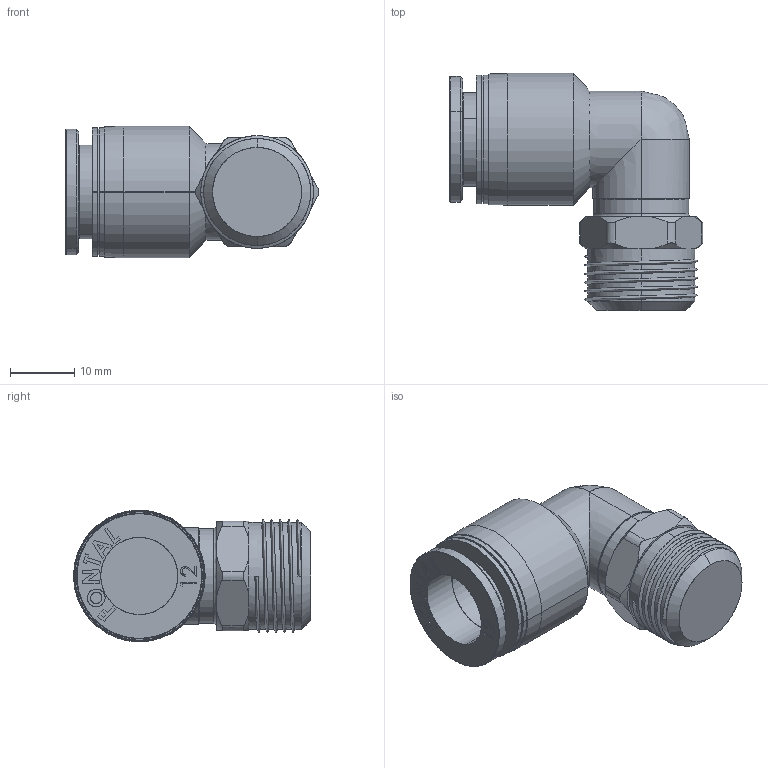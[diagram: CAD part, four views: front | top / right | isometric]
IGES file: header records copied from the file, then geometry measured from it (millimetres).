
Start section: SolidWorks IGES file using analytic representation for surfaces
Global section: file name: D:\Custom\3D繪製\ADDITIONAL\FPL\FPL12-03.IGS,1; native system: 5HSolidWorks 2014; preprocessor: SolidWorks 2014; author: Chieh_Lu; date: 160115.050153; units: millimetre
Bounding box: 39.43 x 36.89 x 20.5 mm (x, y, z)
Surface area: 5581.9 mm2 (no closed solid volume)
Topology: 0 solids, 0 shells, 175 faces, 2111 edges, 2109 vertices
Faces by surface type: bspline 112, revolution 63
